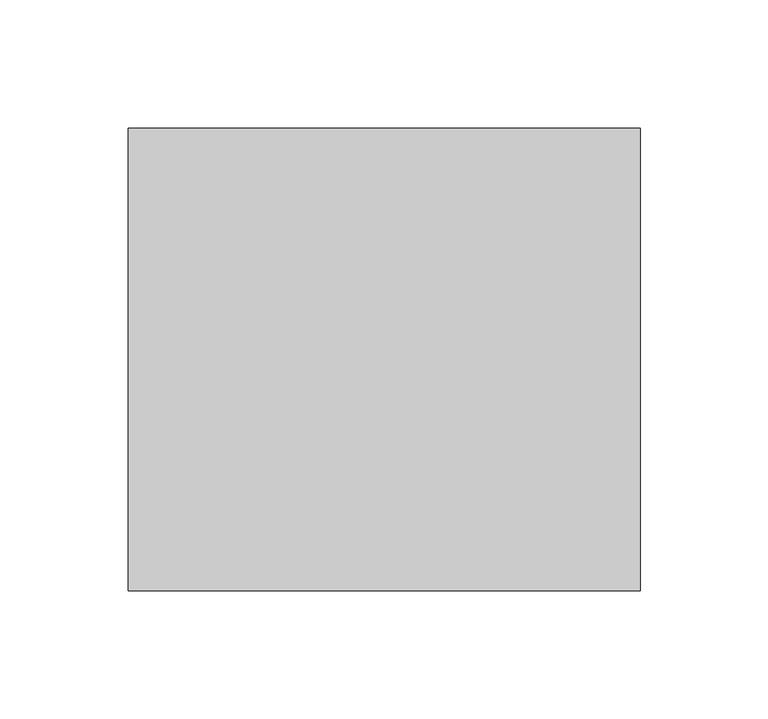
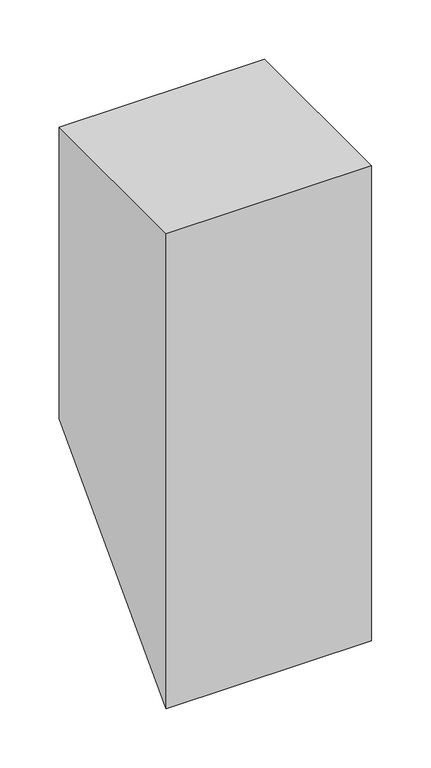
"""IFC4 building model written with IfcOpenShell, lengths in millimetres: beam geometry, appoggiTravi13 : appoggiTravi."""

from ifc_helpers import new_model, si_unit, frame, origin, place, context, project, spatial, polyline, outline, extrude, source, transform, mapped, element, save


def beam_d1a3bf84(model_context):
    return source(origin(), model_context, "Body", "SweptSolid", [
        extrude(outline(polyline([(24644.0647091, -4580.0), (24644.0647091, -4880.0), (24463.3920265, -5069.0), (24463.3920265, -4580.0), (24644.0647091, -4580.0)])), frame((16842.3599913, 0.0, 0.0), z_axis=(1.0, 0.0, 0.0), x_axis=(0.0, 1.0, 0.0)), (0.0, 0.0, 1.0), 200.0),
    ])


if __name__ == "__main__":
    model = new_model("IFC4")
    model_context = context("Model", 3, world=origin())
    ifc_project = project(units=[si_unit("LENGTHUNIT", "METRE", prefix="MILLI")], contexts=[model_context])
    site = spatial("IfcSite", under=ifc_project)
    building = spatial("IfcBuilding", under=site)
    placement = place(None, origin())
    beam_shape = beam_d1a3bf84(model_context)
    element("IfcBeam", 1, ObjectType="appoggiTravi13 : appoggiTravi", at=placement, inside=building, context=model_context, shape_type="MappedRepresentation", body=[
        mapped(beam_shape, transform((0.0, 0.0, 0.0), x_axis=(1.0, 0.0, 0.0), y_axis=(0.0, 1.0, 0.0), z_axis=(0.0, 0.0, 1.0))),
    ])
    save(model, "model.ifc")
